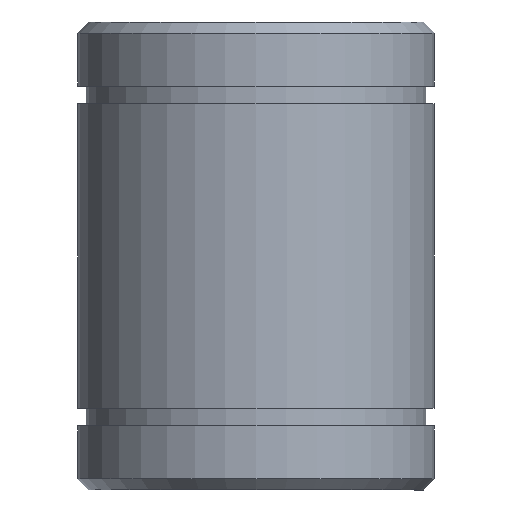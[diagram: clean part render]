
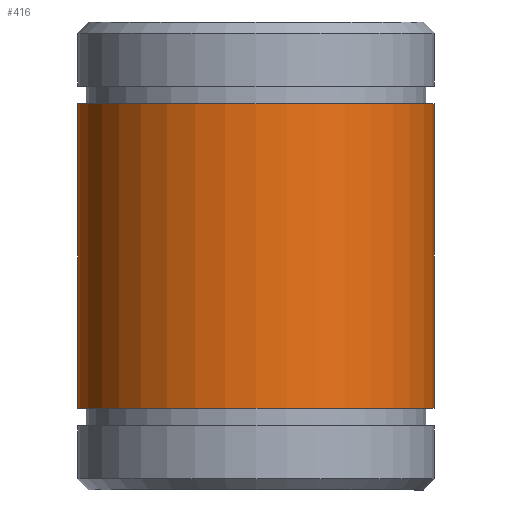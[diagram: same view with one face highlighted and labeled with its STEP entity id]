
A CAD part, left-side view. The second image highlights one B-rep face of the part: STEP entity #416.
In plain terms, the highlighted cylindrical face has radius 16 mm (diameter 32 mm), a partial arc.
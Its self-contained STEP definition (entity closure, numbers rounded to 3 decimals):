
#3 = DIRECTION ( 'NONE',  ( 0., 1., 0. ) ) ;
#24 = DIRECTION ( 'NONE',  ( 0., 0., -1. ) ) ;
#64 = EDGE_CURVE ( 'NONE', #276, #405, #191, .T. ) ;
#85 = CARTESIAN_POINT ( 'NONE',  ( 0., 21., -21. ) ) ;
#119 = DIRECTION ( 'NONE',  ( 0., 0., -1. ) ) ;
#160 = EDGE_CURVE ( 'NONE', #593, #276, #542, .T. ) ;
#165 = VECTOR ( 'NONE', #24, 1000. ) ;
#191 = CIRCLE ( 'NONE', #586, 16. ) ;
#193 = DIRECTION ( 'NONE',  ( 0., 0., -1. ) ) ;
#203 = DIRECTION ( 'NONE',  ( 0., 0., -1. ) ) ;
#215 = CARTESIAN_POINT ( 'NONE',  ( 0., 21., 13.65 ) ) ;
#222 = ORIENTED_EDGE ( 'NONE', *, *, #160, .F. ) ;
#248 = CARTESIAN_POINT ( 'NONE',  ( 0., 5., -21. ) ) ;
#259 = CARTESIAN_POINT ( 'NONE',  ( 0., 5., -13.65 ) ) ;
#266 = ORIENTED_EDGE ( 'NONE', *, *, #311, .T. ) ;
#276 = VERTEX_POINT ( 'NONE', #259 ) ;
#278 = AXIS2_PLACEMENT_3D ( 'NONE', #85, #379, #572 ) ;
#305 = LINE ( 'NONE', #461, #165 ) ;
#311 = EDGE_CURVE ( 'NONE', #485, #405, #305, .T. ) ;
#339 = VECTOR ( 'NONE', #203, 1000. ) ;
#379 = DIRECTION ( 'NONE',  ( 0., 0., -1. ) ) ;
#386 = ORIENTED_EDGE ( 'NONE', *, *, #585, .T. ) ;
#401 = AXIS2_PLACEMENT_3D ( 'NONE', #215, #119, #546 ) ;
#405 = VERTEX_POINT ( 'NONE', #522 ) ;
#416 = ADVANCED_FACE ( 'NONE', ( #516 ), #513, .T. ) ;
#458 = CARTESIAN_POINT ( 'NONE',  ( 0., 5., 13.65 ) ) ;
#461 = CARTESIAN_POINT ( 'NONE',  ( 0., 37., -21. ) ) ;
#468 = EDGE_LOOP ( 'NONE', ( #222, #386, #266, #523 ) ) ;
#485 = VERTEX_POINT ( 'NONE', #494 ) ;
#494 = CARTESIAN_POINT ( 'NONE',  ( 0., 37., 13.65 ) ) ;
#513 = CYLINDRICAL_SURFACE ( 'NONE', #278, 16. ) ;
#516 = FACE_OUTER_BOUND ( 'NONE', #468, .T. ) ;
#522 = CARTESIAN_POINT ( 'NONE',  ( 0., 37., -13.65 ) ) ;
#523 = ORIENTED_EDGE ( 'NONE', *, *, #64, .F. ) ;
#536 = CARTESIAN_POINT ( 'NONE',  ( 0., 21., -13.65 ) ) ;
#542 = LINE ( 'NONE', #248, #339 ) ;
#546 = DIRECTION ( 'NONE',  ( 0., 1., 0. ) ) ;
#572 = DIRECTION ( 'NONE',  ( 0., 1., 0. ) ) ;
#580 = CIRCLE ( 'NONE', #401, 16. ) ;
#585 = EDGE_CURVE ( 'NONE', #593, #485, #580, .T. ) ;
#586 = AXIS2_PLACEMENT_3D ( 'NONE', #536, #193, #3 ) ;
#593 = VERTEX_POINT ( 'NONE', #458 ) ;
